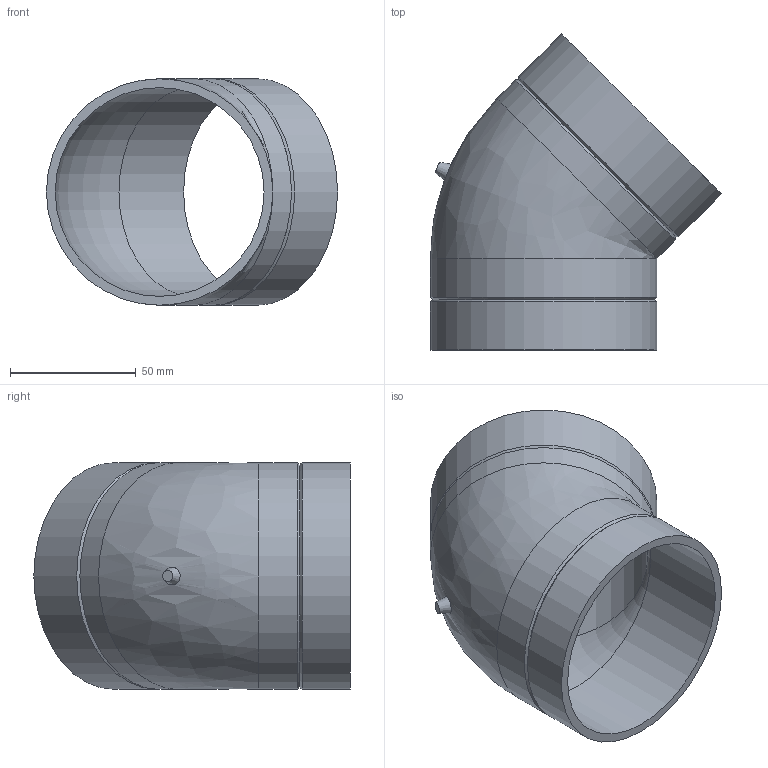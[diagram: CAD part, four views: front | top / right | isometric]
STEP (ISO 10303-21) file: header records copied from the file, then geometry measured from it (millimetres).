
FILE_DESCRIPTION(/* description */ (''),/* implementation_level */ '2;1');
FILE_NAME(/* name */ 'Z:\Geberit\Export\NewStep\PE Bogen Einzelteil_Ipart\stp\366045.stp',/* time_stamp */ '2014-04-02T11:56:44+02:00',/* author */ ('bruh'),/* organization */ (''),/* preprocessor_version */ 'ST-DEVELOPER v15.2',/* originating_system */ 'Autodesk Inventor 2014',/* authorisation */ '');
FILE_SCHEMA (('AUTOMOTIVE_DESIGN { 1 0 10303 214 3 1 1 }'));
Length unit declared in the file: millimetre
Products named in the file (1): 366045
Bounding box: 115.71 x 125.71 x 90 mm (x, y, z)
Volume: 102842.3 mm3; surface area: 61130.8 mm2
Topology: 1 solids, 1 shells, 16 faces, 32 edges, 17 vertices
Faces by surface type: cylinder 6, cone 5, plane 3, torus 1, bspline 1
Full cylindrical faces by diameter (mm): 83 x2, 90 x4
Entity records: 475 total; most frequent: CARTESIAN_POINT 169, DIRECTION 62, ORIENTED_EDGE 32, EDGE_LOOP 31, AXIS2_PLACEMENT_3D 31, FACE_BOUND 18, STYLED_ITEM 17, EDGE_CURVE 16
